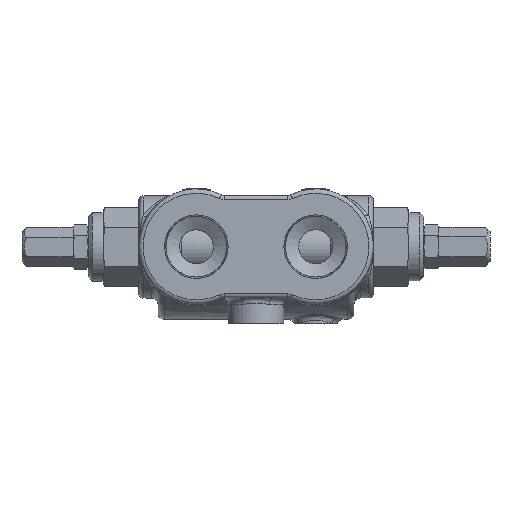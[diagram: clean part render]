
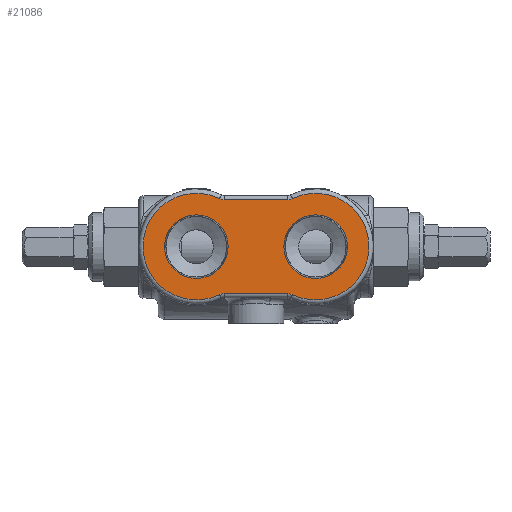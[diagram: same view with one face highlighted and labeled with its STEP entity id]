
A CAD part, top view. The second image highlights one B-rep face of the part: STEP entity #21086.
In plain terms, the highlighted planar face has unit normal (0, 0, 1).
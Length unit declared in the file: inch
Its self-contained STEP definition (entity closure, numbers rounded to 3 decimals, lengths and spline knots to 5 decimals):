
#3094=CARTESIAN_POINT('',(2.21606,0.,4.5));
#3095=VERTEX_POINT('',#3094);
#3096=CARTESIAN_POINT('',(1.75,0.,4.5));
#3097=DIRECTION('',(0.0,0.0,-1.0));
#3098=DIRECTION('',(1.0,0.0,0.0));
#3099=AXIS2_PLACEMENT_3D('',#3096,#3097,#3098);
#3100=CIRCLE('',#3099,0.46606);
#3101=EDGE_CURVE('',#3095,#3095,#3100,.T.);
#3254=CARTESIAN_POINT('',(0.46606,0.,4.5));
#3255=VERTEX_POINT('',#3254);
#3256=CARTESIAN_POINT('',(0.0,0.,4.5));
#3257=DIRECTION('',(0.0,0.0,-1.0));
#3258=DIRECTION('',(1.0,0.0,0.0));
#3259=AXIS2_PLACEMENT_3D('',#3256,#3257,#3258);
#3260=CIRCLE('',#3259,0.46606);
#3261=EDGE_CURVE('',#3255,#3255,#3260,.T.);
#20768=CARTESIAN_POINT('',(1.40879,0.70363,4.5));
#20769=VERTEX_POINT('',#20768);
#20777=CARTESIAN_POINT('',(1.40879,-0.70363,4.5));
#20778=VERTEX_POINT('',#20777);
#20779=CARTESIAN_POINT('',(1.75,0.0,4.5));
#20780=DIRECTION('',(0.0,0.0,-1.0));
#20781=DIRECTION('',(1.0,0.0,0.0));
#20782=AXIS2_PLACEMENT_3D('',#20779,#20780,#20781);
#20783=CIRCLE('',#20782,0.782);
#20784=EDGE_CURVE('',#20769,#20778,#20783,.T.);
#20804=CARTESIAN_POINT('',(1.34072,0.688,4.5));
#20805=VERTEX_POINT('',#20804);
#20813=CARTESIAN_POINT('',(1.34072,0.844,4.5));
#20814=DIRECTION('',(0.0,0.0,1.0));
#20815=DIRECTION('',(0.224,-0.975,0.0));
#20816=AXIS2_PLACEMENT_3D('',#20813,#20814,#20815);
#20817=CIRCLE('',#20816,0.156);
#20818=EDGE_CURVE('',#20805,#20769,#20817,.T.);
#20836=CARTESIAN_POINT('',(1.34072,-0.688,4.5));
#20837=VERTEX_POINT('',#20836);
#20847=CARTESIAN_POINT('',(1.34072,-0.844,4.5));
#20848=DIRECTION('',(0.0,0.0,1.0));
#20849=DIRECTION('',(0.224,0.975,0.0));
#20850=AXIS2_PLACEMENT_3D('',#20847,#20848,#20849);
#20851=CIRCLE('',#20850,0.156);
#20852=EDGE_CURVE('',#20778,#20837,#20851,.T.);
#20864=CARTESIAN_POINT('',(0.40928,0.688,4.5));
#20865=VERTEX_POINT('',#20864);
#20873=CARTESIAN_POINT('',(0.40928,0.688,4.5));
#20874=DIRECTION('',(1.0,0.0,0.0));
#20875=VECTOR('',#20874,0.93145);
#20876=LINE('',#20873,#20875);
#20877=EDGE_CURVE('',#20865,#20805,#20876,.T.);
#20897=CARTESIAN_POINT('',(0.40928,-0.688,4.5));
#20898=VERTEX_POINT('',#20897);
#20899=CARTESIAN_POINT('',(1.34072,-0.688,4.5));
#20900=DIRECTION('',(-1.0,0.0,0.0));
#20901=VECTOR('',#20900,0.93145);
#20902=LINE('',#20899,#20901);
#20903=EDGE_CURVE('',#20837,#20898,#20902,.T.);
#20921=CARTESIAN_POINT('',(0.34121,0.70363,4.5));
#20922=VERTEX_POINT('',#20921);
#20930=CARTESIAN_POINT('',(0.40928,0.844,4.5));
#20931=DIRECTION('',(0.0,0.0,1.0));
#20932=DIRECTION('',(-0.224,-0.975,0.0));
#20933=AXIS2_PLACEMENT_3D('',#20930,#20931,#20932);
#20934=CIRCLE('',#20933,0.156);
#20935=EDGE_CURVE('',#20922,#20865,#20934,.T.);
#20953=CARTESIAN_POINT('',(0.34121,-0.70363,4.5));
#20954=VERTEX_POINT('',#20953);
#20964=CARTESIAN_POINT('',(0.40928,-0.844,4.5));
#20965=DIRECTION('',(0.0,0.0,1.0));
#20966=DIRECTION('',(-0.224,0.975,0.0));
#20967=AXIS2_PLACEMENT_3D('',#20964,#20965,#20966);
#20968=CIRCLE('',#20967,0.156);
#20969=EDGE_CURVE('',#20898,#20954,#20968,.T.);
#20982=CARTESIAN_POINT('',(0.0,0.0,4.5));
#20983=DIRECTION('',(0.0,0.0,-1.0));
#20984=DIRECTION('',(-1.0,0.0,0.0));
#20985=AXIS2_PLACEMENT_3D('',#20982,#20983,#20984);
#20986=CIRCLE('',#20985,0.782);
#20987=EDGE_CURVE('',#20954,#20922,#20986,.T.);
#21065=CARTESIAN_POINT('',(0.875,0.,4.5));
#21066=DIRECTION('',(0.0,0.0,1.0));
#21067=DIRECTION('',(1.0,0.0,0.0));
#21068=AXIS2_PLACEMENT_3D('',#21065,#21066,#21067);
#21069=PLANE('',#21068);
#21070=ORIENTED_EDGE('',*,*,#20784,.F.);
#21071=ORIENTED_EDGE('',*,*,#20818,.F.);
#21072=ORIENTED_EDGE('',*,*,#20877,.F.);
#21073=ORIENTED_EDGE('',*,*,#20935,.F.);
#21074=ORIENTED_EDGE('',*,*,#20987,.F.);
#21075=ORIENTED_EDGE('',*,*,#20969,.F.);
#21076=ORIENTED_EDGE('',*,*,#20903,.F.);
#21077=ORIENTED_EDGE('',*,*,#20852,.F.);
#21078=EDGE_LOOP('',(#21070,#21071,#21072,#21073,#21074,#21075,#21076,#21077));
#21079=FACE_OUTER_BOUND('',#21078,.T.);
#21080=ORIENTED_EDGE('',*,*,#3101,.T.);
#21081=EDGE_LOOP('',(#21080));
#21082=FACE_BOUND('',#21081,.T.);
#21083=ORIENTED_EDGE('',*,*,#3261,.T.);
#21084=EDGE_LOOP('',(#21083));
#21085=FACE_BOUND('',#21084,.T.);
#21086=ADVANCED_FACE('',(#21079,#21082,#21085),#21069,.T.);
